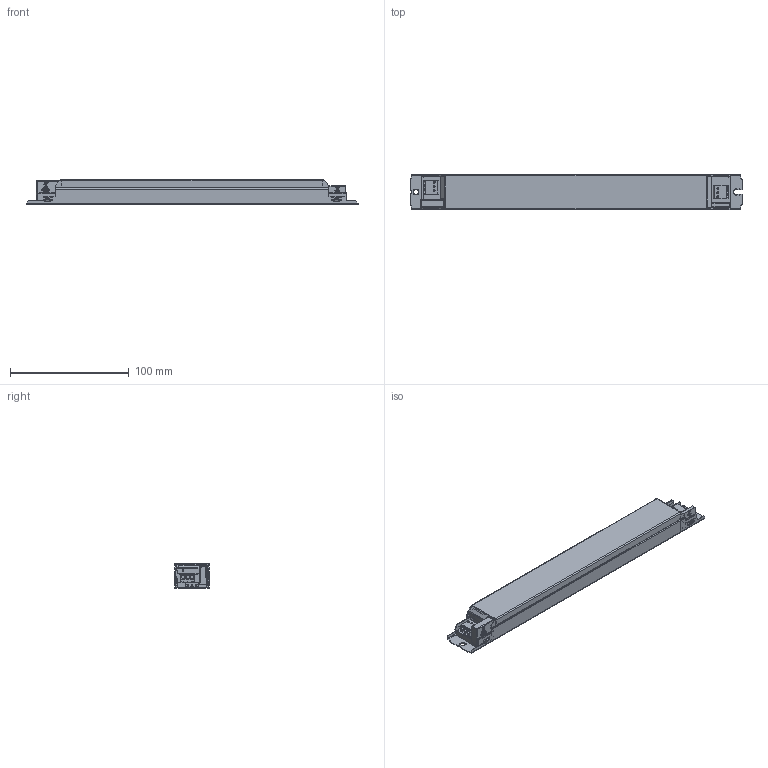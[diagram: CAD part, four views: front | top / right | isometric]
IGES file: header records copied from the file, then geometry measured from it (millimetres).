
Start section: SolidWorks IGES file using analytic representation for surfaces
Global section: file name: C:\Temp\OLQ-batchEngine\queue\temp_\4358905swm000.igs; native system: SolidWorks 2020; preprocessor: SolidWorks 2020; author: SYSTEM; date: 220708.131531; units: millimetre
Bounding box: 279 x 30 x 21 mm (x, y, z)
Surface area: 36189.2 mm2 (no closed solid volume)
Topology: 0 solids, 0 shells, 1214 faces, 10284 edges, 10282 vertices
Faces by surface type: bspline 882, revolution 332
